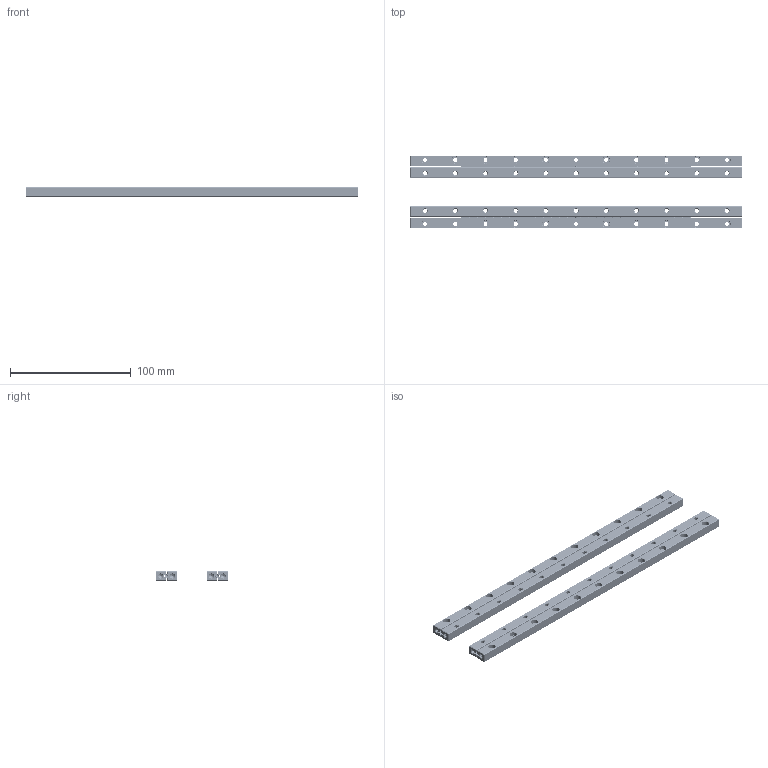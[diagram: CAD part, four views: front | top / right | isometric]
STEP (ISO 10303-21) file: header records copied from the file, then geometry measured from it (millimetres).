
FILE_DESCRIPTION(/* description */ (''),/* implementation_level */ '2;1');
FILE_NAME(/* name */ 'Set RSDE-3275x54KRE-ACC.stp',/* time_stamp */ '2018-12-19T13:40:17+01:00',/* author */ (''),/* organization */ (''),/* preprocessor_version */ 'ST-DEVELOPER v16.7',/* originating_system */ 'SIEMENS PLM Software NX 12.0',/* authorisation */ '');
FILE_SCHEMA (('AUTOMOTIVE_DESIGN { 1 0 10303 214 3 1 1 1 }'));
Products named in the file (1): rhn11EC67B6z2at
Bounding box: 274.67 x 60 x 8 mm (x, y, z)
Volume: 66910.4 mm3; surface area: 57119.5 mm2
Topology: 132 solids, 132 shells, 7464 faces, 21430 edges, 14118 vertices
Faces by surface type: plane 3884, cylinder 2292, torus 1096, cone 120, extrusion 72
Full cylindrical faces by diameter (mm): 0.45 x464, 1 x8, 2 x108, 2.6 x8, 3 x108, 3.2 x8, 3.3 x44, 6 x44
Entity records: 245656 total; most frequent: CARTESIAN_POINT 49901, DIRECTION 40878, ORIENTED_EDGE 39376, EDGE_CURVE 19688, AXIS2_PLACEMENT_3D 14413, VERTEX_POINT 13508, VECTOR 12052, LINE 11980
